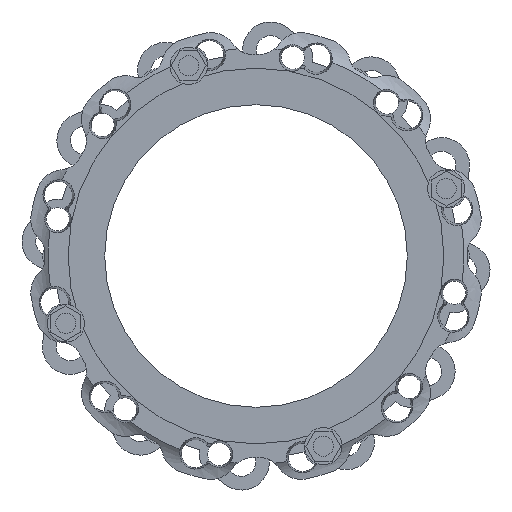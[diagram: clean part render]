
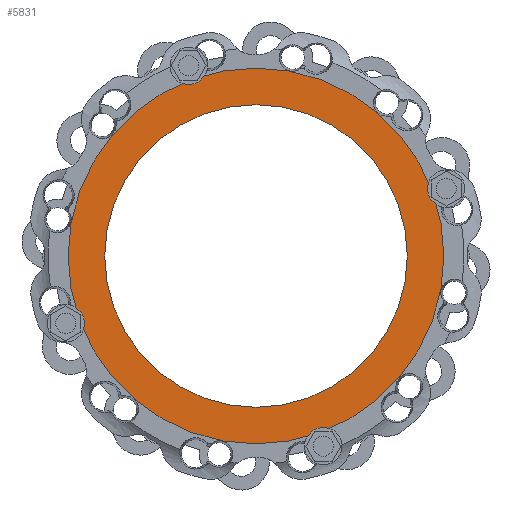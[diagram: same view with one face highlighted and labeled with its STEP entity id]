
A CAD part, front view. The second image highlights one B-rep face of the part: STEP entity #5831.
In plain terms, the highlighted planar face has unit normal (0, -1, 0).
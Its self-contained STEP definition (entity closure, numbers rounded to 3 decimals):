
#2=CARTESIAN_POINT('',(0.,0.,0.));
#3=DIRECTION('',(0.,-1.,0.));
#4=DIRECTION('',(0.,0.,1.));
#5=AXIS2_PLACEMENT_3D('',#2,#3,#4);
#11=CARTESIAN_POINT('',(0.,0.,0.));
#12=DIRECTION('',(0.,1.,0.));
#13=DIRECTION('',(0.,0.,1.));
#14=AXIS2_PLACEMENT_3D('',#11,#12,#13);
#16=CARTESIAN_POINT('',(0.,0.,0.));
#17=DIRECTION('',(0.,1.,0.));
#18=DIRECTION('',(-0.866,0.,0.5));
#19=AXIS2_PLACEMENT_3D('',#16,#17,#18);
#638=CARTESIAN_POINT('',(0.,0.,0.));
#639=DIRECTION('',(0.,-1.,0.));
#640=DIRECTION('',(-0.866,0.,0.5));
#641=AXIS2_PLACEMENT_3D('',#638,#639,#640);
#5468=CARTESIAN_POINT('',(-129.904,0.,75.));
#5470=VERTEX_POINT('',#5468);
#5486=CARTESIAN_POINT('',(0.,0.,150.));
#5488=VERTEX_POINT('',#5486);
#5807=CARTESIAN_POINT('',(-161.297,0.,93.125));
#5809=VERTEX_POINT('',#5807);
#5811=CARTESIAN_POINT('',(0.,0.,186.25));
#5813=VERTEX_POINT('',#5811);
#5814=CARTESIAN_POINT('',(0.,0.,0.));
#5815=DIRECTION('',(0.,1.,0.));
#5816=DIRECTION('',(0.866,0.,0.5));
#5817=AXIS2_PLACEMENT_3D('',#5814,#5815,#5816);
#5818=PLANE('',#5817);
#5820=ORIENTED_EDGE('',*,*,#5819,.F.);
#5822=ORIENTED_EDGE('',*,*,#5821,.F.);
#5823=EDGE_LOOP('',(#5820,#5822));
#5824=FACE_OUTER_BOUND('',#5823,.F.);
#5826=ORIENTED_EDGE('',*,*,#5825,.F.);
#5828=ORIENTED_EDGE('',*,*,#5827,.F.);
#5829=EDGE_LOOP('',(#5826,#5828));
#5830=FACE_BOUND('',#5829,.F.);
#5831=ADVANCED_FACE('',(#5824,#5830),#5818,.F.);
#6=CIRCLE('',#5,186.25);
#15=CIRCLE('',#14,150.);
#20=CIRCLE('',#19,150.);
#642=CIRCLE('',#641,186.25);
#5819=EDGE_CURVE('',#5809,#5813,#642,.T.);
#5821=EDGE_CURVE('',#5813,#5809,#6,.T.);
#5825=EDGE_CURVE('',#5488,#5470,#15,.T.);
#5827=EDGE_CURVE('',#5470,#5488,#20,.T.);
